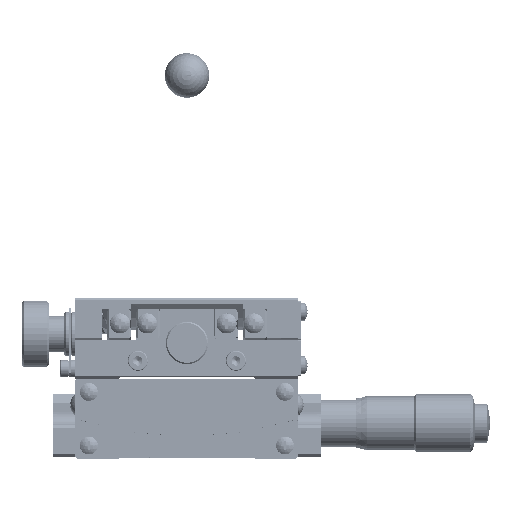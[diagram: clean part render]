
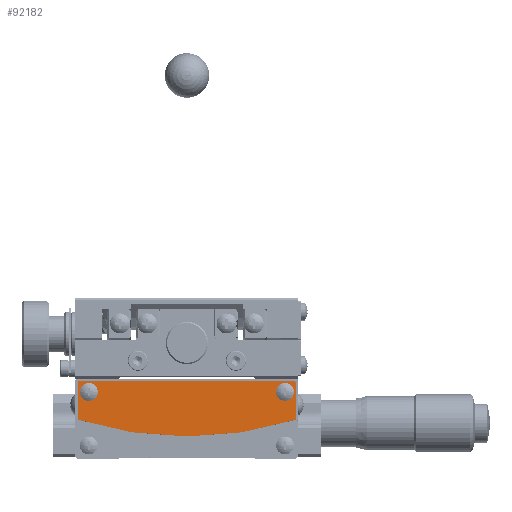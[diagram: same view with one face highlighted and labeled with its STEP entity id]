
A CAD part, front view. The second image highlights one B-rep face of the part: STEP entity #92182.
In plain terms, the highlighted planar face has unit normal (0, -1, 0).
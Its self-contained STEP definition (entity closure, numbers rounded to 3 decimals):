
#72849 = EDGE_CURVE ( 'NONE', #72852, #72854, #84209, .T. ) ;
#72852 = VERTEX_POINT ( 'NONE', #84202 ) ;
#72854 = VERTEX_POINT ( 'NONE', #84199 ) ;
#72922 = EDGE_CURVE ( 'NONE', #72924, #72925, #84402, .T. ) ;
#72924 = VERTEX_POINT ( 'NONE', #84395 ) ;
#72925 = VERTEX_POINT ( 'NONE', #84393 ) ;
#84199 = CARTESIAN_POINT ( 'NONE',  ( 20., -25.5, -3. ) ) ;
#84202 = CARTESIAN_POINT ( 'NONE',  ( 24., -25.5, -3. ) ) ;
#84203 = DIRECTION ( 'NONE',  ( 0., 0., -1. ) ) ;
#84205 = DIRECTION ( 'NONE',  ( 0., -1., 0. ) ) ;
#84206 = CARTESIAN_POINT ( 'NONE',  ( 22., -25.5, -3. ) ) ;
#84208 = AXIS2_PLACEMENT_3D ( 'NONE', #84206, #84205, #84203 ) ;
#84209 = CIRCLE ( 'NONE', #84208, 2. ) ;
#84284 = CARTESIAN_POINT ( 'NONE',  ( -22., -25.5, -3. ) ) ;
#84393 = CARTESIAN_POINT ( 'NONE',  ( -24., -25.5, -3. ) ) ;
#84395 = CARTESIAN_POINT ( 'NONE',  ( -20., -25.5, -3. ) ) ;
#84397 = DIRECTION ( 'NONE',  ( 0., 0., -1. ) ) ;
#84398 = DIRECTION ( 'NONE',  ( 0., -1., 0. ) ) ;
#84400 = AXIS2_PLACEMENT_3D ( 'NONE', #84284, #84398, #84397 ) ;
#84402 = CIRCLE ( 'NONE', #84400, 2. ) ;
#89995 = VERTEX_POINT ( 'NONE', #114126 ) ;
#89997 = EDGE_CURVE ( 'NONE', #89998, #89995, #114190, .T. ) ;
#89998 = VERTEX_POINT ( 'NONE', #114185 ) ;
#91928 = EDGE_CURVE ( 'NONE', #72925, #72924, #115683, .T. ) ;
#92150 = ORIENTED_EDGE ( 'NONE', *, *, #92151, .T. ) ;
#92151 = EDGE_CURVE ( 'NONE', #92153, #92154, #115914, .T. ) ;
#92153 = VERTEX_POINT ( 'NONE', #115910 ) ;
#92154 = VERTEX_POINT ( 'NONE', #115909 ) ;
#92156 = ORIENTED_EDGE ( 'NONE', *, *, #92158, .T. ) ;
#92158 = EDGE_CURVE ( 'NONE', #92154, #92161, #115908, .T. ) ;
#92161 = VERTEX_POINT ( 'NONE', #115904 ) ;
#92163 = ORIENTED_EDGE ( 'NONE', *, *, #92165, .T. ) ;
#92165 = EDGE_CURVE ( 'NONE', #92161, #92166, #115903, .T. ) ;
#92166 = VERTEX_POINT ( 'NONE', #115899 ) ;
#92182 = ADVANCED_FACE ( 'NONE', ( #115957, #115956, #115955 ), #115954, .T. ) ;
#92183 = EDGE_LOOP ( 'NONE', ( #92184, #92185 ) ) ;
#92184 = ORIENTED_EDGE ( 'NONE', *, *, #72922, .F. ) ;
#92185 = ORIENTED_EDGE ( 'NONE', *, *, #91928, .F. ) ;
#92188 = EDGE_LOOP ( 'NONE', ( #92288, #92290 ) ) ;
#92215 = EDGE_CURVE ( 'NONE', #72854, #72852, #115938, .T. ) ;
#92264 = ORIENTED_EDGE ( 'NONE', *, *, #92266, .T. ) ;
#92266 = EDGE_CURVE ( 'NONE', #92166, #89998, #116024, .T. ) ;
#92269 = ORIENTED_EDGE ( 'NONE', *, *, #89997, .T. ) ;
#92272 = ORIENTED_EDGE ( 'NONE', *, *, #92273, .T. ) ;
#92273 = EDGE_CURVE ( 'NONE', #89995, #92153, #116020, .T. ) ;
#92288 = ORIENTED_EDGE ( 'NONE', *, *, #72849, .F. ) ;
#92290 = ORIENTED_EDGE ( 'NONE', *, *, #92215, .F. ) ;
#92293 = EDGE_LOOP ( 'NONE', ( #92150, #92156, #92163, #92264, #92269, #92272 ) ) ;
#114126 = CARTESIAN_POINT ( 'NONE',  ( 24.5, -25.5, -9.206 ) ) ;
#114185 = CARTESIAN_POINT ( 'NONE',  ( -24.5, -25.5, -9.206 ) ) ;
#114186 = DIRECTION ( 'NONE',  ( 1., 0., 0. ) ) ;
#114187 = DIRECTION ( 'NONE',  ( 0., -1., 0. ) ) ;
#114188 = CARTESIAN_POINT ( 'NONE',  ( 0., -25.5, 68. ) ) ;
#114189 = AXIS2_PLACEMENT_3D ( 'NONE', #114188, #114187, #114186 ) ;
#114190 = CIRCLE ( 'NONE', #114189, 81. ) ;
#115679 = DIRECTION ( 'NONE',  ( 0., 0., -1. ) ) ;
#115680 = DIRECTION ( 'NONE',  ( 0., -1., 0. ) ) ;
#115681 = CARTESIAN_POINT ( 'NONE',  ( -22., -25.5, -3. ) ) ;
#115682 = AXIS2_PLACEMENT_3D ( 'NONE', #115681, #115680, #115679 ) ;
#115683 = CIRCLE ( 'NONE', #115682, 2. ) ;
#115899 = CARTESIAN_POINT ( 'NONE',  ( -24.5, -25.5, -0.8 ) ) ;
#115900 = DIRECTION ( 'NONE',  ( -0.707, 0., -0.707 ) ) ;
#115901 = VECTOR ( 'NONE', #115900, 1000. ) ;
#115902 = CARTESIAN_POINT ( 'NONE',  ( -24.2, -25.5, -0.5 ) ) ;
#115903 = LINE ( 'NONE', #115902, #115901 ) ;
#115904 = CARTESIAN_POINT ( 'NONE',  ( -24.2, -25.5, -0.5 ) ) ;
#115905 = DIRECTION ( 'NONE',  ( -1., 0., 0. ) ) ;
#115906 = VECTOR ( 'NONE', #115905, 1000. ) ;
#115907 = CARTESIAN_POINT ( 'NONE',  ( 24.2, -25.5, -0.5 ) ) ;
#115908 = LINE ( 'NONE', #115907, #115906 ) ;
#115909 = CARTESIAN_POINT ( 'NONE',  ( 24.2, -25.5, -0.5 ) ) ;
#115910 = CARTESIAN_POINT ( 'NONE',  ( 24.5, -25.5, -0.8 ) ) ;
#115911 = DIRECTION ( 'NONE',  ( -0.707, 0., 0.707 ) ) ;
#115912 = VECTOR ( 'NONE', #115911, 1000. ) ;
#115913 = CARTESIAN_POINT ( 'NONE',  ( 24.5, -25.5, -0.8 ) ) ;
#115914 = LINE ( 'NONE', #115913, #115912 ) ;
#115934 = DIRECTION ( 'NONE',  ( 0., 0., -1. ) ) ;
#115935 = DIRECTION ( 'NONE',  ( 0., -1., 0. ) ) ;
#115936 = CARTESIAN_POINT ( 'NONE',  ( 22., -25.5, -3. ) ) ;
#115937 = AXIS2_PLACEMENT_3D ( 'NONE', #115936, #115935, #115934 ) ;
#115938 = CIRCLE ( 'NONE', #115937, 2. ) ;
#115950 = DIRECTION ( 'NONE',  ( 1., 0., 0. ) ) ;
#115951 = DIRECTION ( 'NONE',  ( 0., -1., 0. ) ) ;
#115952 = CARTESIAN_POINT ( 'NONE',  ( 0., -25.5, 68. ) ) ;
#115953 = AXIS2_PLACEMENT_3D ( 'NONE', #115952, #115951, #115950 ) ;
#115954 = PLANE ( 'NONE',  #115953 ) ;
#115955 = FACE_OUTER_BOUND ( 'NONE', #92293, .T. ) ;
#115956 = FACE_BOUND ( 'NONE', #92188, .T. ) ;
#115957 = FACE_BOUND ( 'NONE', #92183, .T. ) ;
#116017 = DIRECTION ( 'NONE',  ( 0., 0., 1. ) ) ;
#116018 = VECTOR ( 'NONE', #116017, 1000. ) ;
#116019 = CARTESIAN_POINT ( 'NONE',  ( 24.5, -25.5, -9.206 ) ) ;
#116020 = LINE ( 'NONE', #116019, #116018 ) ;
#116021 = DIRECTION ( 'NONE',  ( 0., 0., -1. ) ) ;
#116022 = VECTOR ( 'NONE', #116021, 1000. ) ;
#116023 = CARTESIAN_POINT ( 'NONE',  ( -24.5, -25.5, -0.8 ) ) ;
#116024 = LINE ( 'NONE', #116023, #116022 ) ;
